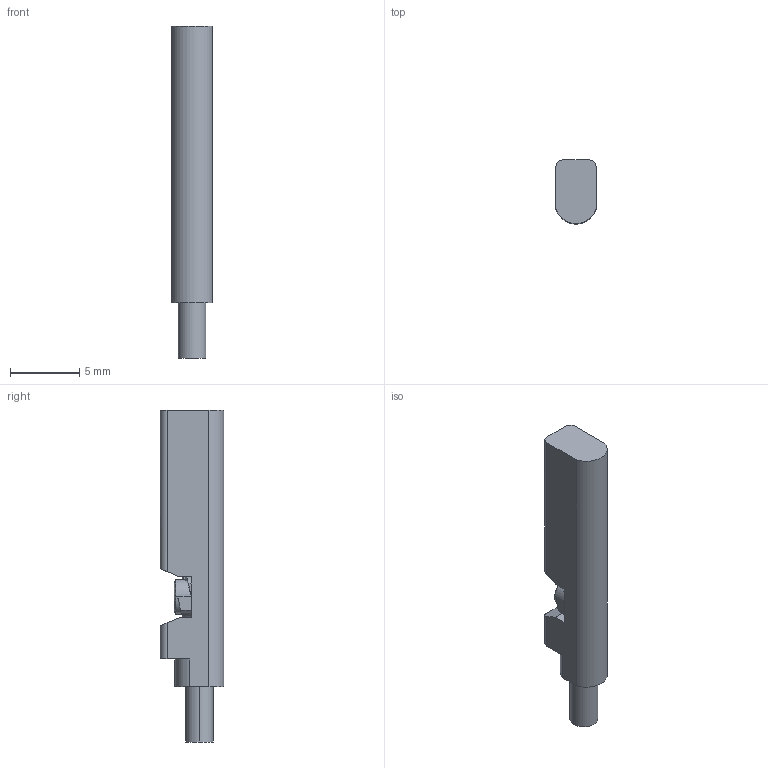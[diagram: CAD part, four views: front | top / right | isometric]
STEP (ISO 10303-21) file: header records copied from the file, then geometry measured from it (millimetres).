
FILE_DESCRIPTION (( 'STEP AP203' ), '1' );
FILE_NAME ('BIM-UNR-X.step', '2013-06-26T20:24:54', ( 'Turck User' ), ( '' ), 'SwSTEP 2.0', 'SolidWorks 2013', '' );
FILE_SCHEMA (( 'CONFIG_CONTROL_DESIGN' ));
Length unit declared in the file: millimetre
Products named in the file (1): BIM-UNR-X
Bounding box: 2.9 x 4.59 x 24 mm (x, y, z)
Volume: 237.7 mm3; surface area: 322 mm2
Topology: 1 solids, 1 shells, 60 faces, 160 edges, 103 vertices
Faces by surface type: plane 39, cylinder 15, bspline 4, cone 2
Entity records: 2160 total; most frequent: CARTESIAN_POINT 636, ORIENTED_EDGE 320, DIRECTION 273, EDGE_CURVE 160, LINE 105, VECTOR 105, VERTEX_POINT 103, AXIS2_PLACEMENT_3D 84
